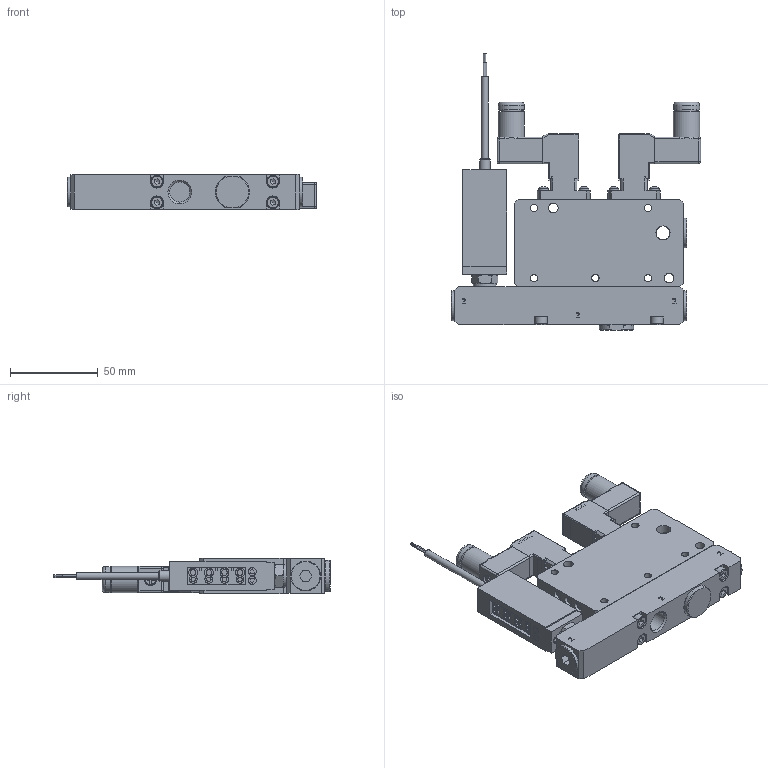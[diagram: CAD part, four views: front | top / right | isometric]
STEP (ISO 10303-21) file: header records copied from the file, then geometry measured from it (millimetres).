
FILE_DESCRIPTION(/* description */ ('GENERATORI DI VUOTO MULTISTADIO MODULARE 2 UGELLI (GVMES-2)'),/* implementation_level */ '2;1');
FILE_NAME(/* name */ 'C:\PNX_VAULTFOLDER\Area Tecnica\Disegni\VARIE-3D\Componenti\1900 (vuoto)\19M14_M_09_ME_ED.stp',/* time_stamp */ '2021-05-04T09:57:28+02:00',/* author */ ('maniean1'),/* organization */ (''),/* preprocessor_version */ 'ST-DEVELOPER v18.1',/* originating_system */ 'Autodesk Inventor 2021',/* authorisation */ '');
FILE_SCHEMA (('AUTOMOTIVE_DESIGN { 1 0 10303 214 3 1 1 }'));
Length unit declared in the file: millimetre
Products named in the file (6): 19M14.M.09.ME.ED; 19M14_M_09_ME_ED_c; N221.0F; DS.30.C.C.F8.#.0; T10714; 315.11.00
Assembly tree (9 placements, depth 2):
  19M14.M.09.ME.ED
    19M14_M_09_ME_ED_c
    N221.0F  x2
    DS.30.C.C.F8.#.0
    T10714  x3
    315.11.00  x2
Bounding box: 141.9 x 157.3 x 20 mm (x, y, z)
Volume: 209999 mm3; surface area: 54136.8 mm2
Topology: 9 solids, 32 shells, 1239 faces, 3098 edges, 1994 vertices
Faces by surface type: plane 645, cylinder 263, bspline 218, cone 67, torus 28, sphere 18
Full cylindrical faces by diameter (mm): 0.6 x3, 1 x4, 2 x2, 2.2 x2, 2.459 x6, 3 x6, 3.2 x4, 3.242 x4, 3.8 x4, 4 x7, 4.1 x5, 4.4 x1, 4.9 x1, 5.5 x9, 6 x1, 6.5 x2, 6.9 x1, 7 x7, 7.6 x2, 8 x2, 8.566 x1, 9.73 x1, 10 x1, 10.4 x1, 10.8 x2, 11.445 x4, 12.9 x1, 13 x1, 13.2 x3, 14.8 x2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
Entity records: 34514 total; most frequent: CARTESIAN_POINT 13670, ORIENTED_EDGE 4268, DIRECTION 3590, EDGE_CURVE 2134, VERTEX_POINT 1393, LINE 1232, VECTOR 1232, AXIS2_PLACEMENT_3D 1179
